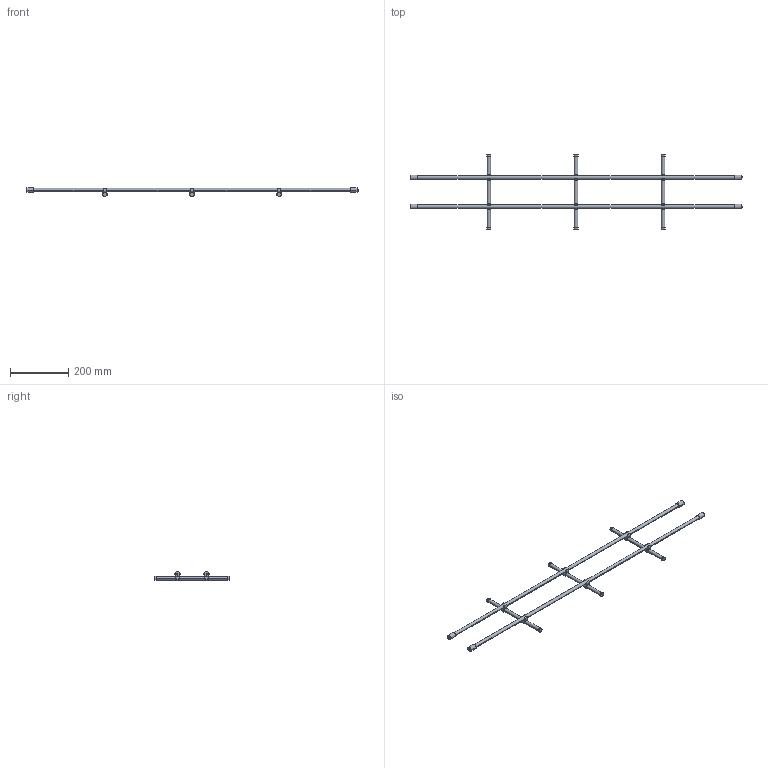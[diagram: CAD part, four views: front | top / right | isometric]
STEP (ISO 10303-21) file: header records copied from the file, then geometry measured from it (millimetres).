
FILE_DESCRIPTION (( 'STEP AP214' ), '1' );
FILE_NAME ('Magic-Classic_NL-290-KAB 1200.step', '2010-09-16T12:49:30', ( 'grass' ), ( '' ), 'SwSTEP 2.0', 'SolidWorks 2010', '' );
FILE_SCHEMA (( 'AUTOMOTIVE_DESIGN' ));
Length unit declared in the file: millimetre
Products named in the file (1): Magic-Classic_NL-290-KAB 1200
Bounding box: 1143 x 255 x 30.45 mm (x, y, z)
Volume: 369062.5 mm3; surface area: 122846.3 mm2
Topology: 1 solids, 1 shells, 190 faces, 534 edges, 356 vertices
Faces by surface type: plane 104, cylinder 86
Entity records: 6260 total; most frequent: DIRECTION 1136, CARTESIAN_POINT 1081, ORIENTED_EDGE 1068, EDGE_CURVE 534, AXIS2_PLACEMENT_3D 411, VERTEX_POINT 356, LINE 314, VECTOR 314
